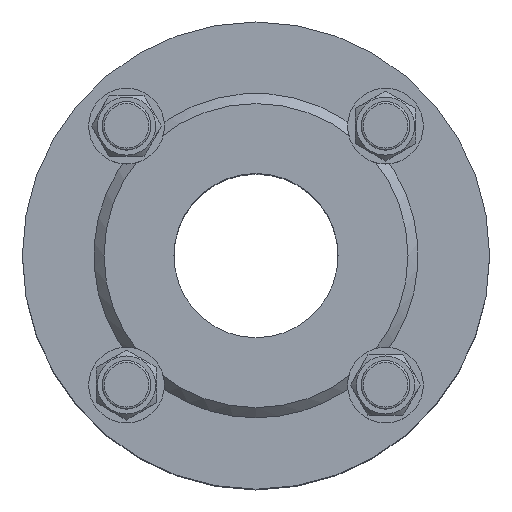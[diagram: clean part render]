
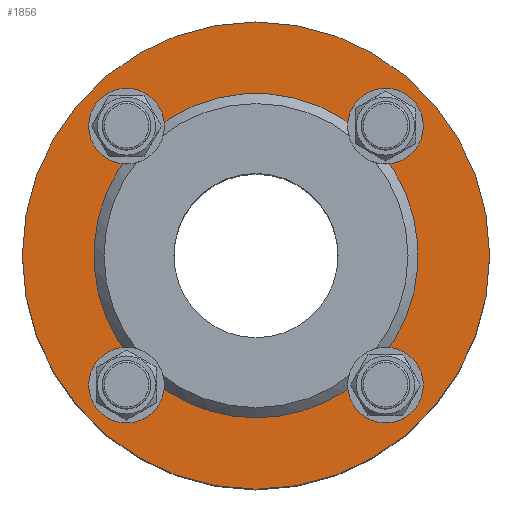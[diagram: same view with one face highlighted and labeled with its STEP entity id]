
A CAD part, top view. The second image highlights one B-rep face of the part: STEP entity #1856.
In plain terms, the highlighted planar face has unit normal (0, 0, 1) as drawn and (0, 0, -1) by its records, which use the part's own axes.
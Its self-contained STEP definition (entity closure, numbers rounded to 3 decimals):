
#1856=ADVANCED_FACE('',(#2594,#2596),#2598,.F.);
#2594=FACE_BOUND('',#2595,.T.);
#2595=EDGE_LOOP('',(#3556));
#2596=FACE_BOUND('',#2597,.T.);
#2597=EDGE_LOOP('',(#3557,#3558,#3559,#3560,#3561,#3562,#3563,#3564,#3565,#3566,
#3567,#3568,#3569));
#2598=PLANE('',#2599);
#2599=AXIS2_PLACEMENT_3D('',#2600,#2601,#2602);
#2600=CARTESIAN_POINT('',(0.,0.,4.));
#2601=DIRECTION('',(0.,0.,1.));
#2602=DIRECTION('',(-1.,0.,0.));
#3556=ORIENTED_EDGE('',*,*,#4208,.F.);
#3557=ORIENTED_EDGE('',*,*,#4207,.T.);
#3558=ORIENTED_EDGE('',*,*,#4195,.T.);
#3559=ORIENTED_EDGE('',*,*,#4209,.T.);
#3560=ORIENTED_EDGE('',*,*,#4210,.T.);
#3561=ORIENTED_EDGE('',*,*,#4202,.T.);
#3562=ORIENTED_EDGE('',*,*,#4211,.T.);
#3563=ORIENTED_EDGE('',*,*,#4212,.T.);
#3564=ORIENTED_EDGE('',*,*,#4200,.T.);
#3565=ORIENTED_EDGE('',*,*,#4199,.T.);
#3566=ORIENTED_EDGE('',*,*,#4213,.T.);
#3567=ORIENTED_EDGE('',*,*,#4214,.T.);
#3568=ORIENTED_EDGE('',*,*,#4197,.T.);
#3569=ORIENTED_EDGE('',*,*,#4206,.T.);
#4195=EDGE_CURVE('',#4489,#4490,#4491,.T.);
#4197=EDGE_CURVE('',#4494,#4492,#4495,.T.);
#4199=EDGE_CURVE('',#4498,#4496,#4499,.T.);
#4200=EDGE_CURVE('',#4500,#4498,#4501,.T.);
#4202=EDGE_CURVE('',#4504,#4502,#4505,.T.);
#4206=EDGE_CURVE('',#4492,#4511,#4512,.T.);
#4207=EDGE_CURVE('',#4511,#4489,#4513,.T.);
#4208=EDGE_CURVE('',#4514,#4514,#4515,.T.);
#4209=EDGE_CURVE('',#4490,#4516,#4517,.T.);
#4210=EDGE_CURVE('',#4516,#4504,#4518,.T.);
#4211=EDGE_CURVE('',#4502,#4519,#4520,.T.);
#4212=EDGE_CURVE('',#4519,#4500,#4521,.T.);
#4213=EDGE_CURVE('',#4496,#4522,#4523,.T.);
#4214=EDGE_CURVE('',#4522,#4494,#4524,.T.);
#4489=VERTEX_POINT('',#5336);
#4490=VERTEX_POINT('',#5337);
#4491=CIRCLE('',#5338,64.2);
#4492=VERTEX_POINT('',#5342);
#4494=VERTEX_POINT('',#5415);
#4495=CIRCLE('',#5416,64.2);
#4496=VERTEX_POINT('',#5420);
#4498=VERTEX_POINT('',#5493);
#4499=CIRCLE('',#5494,64.2);
#4500=VERTEX_POINT('',#5498);
#4501=CIRCLE('',#5499,64.2);
#4502=VERTEX_POINT('',#5503);
#4504=VERTEX_POINT('',#5576);
#4505=CIRCLE('',#5577,64.2);
#4511=VERTEX_POINT('',#5663);
#4512=CIRCLE('',#5664,9.5);
#4513=CIRCLE('',#5668,9.5);
#4514=VERTEX_POINT('',#5672);
#4515=CIRCLE('',#5673,92.5);
#4516=VERTEX_POINT('',#5677);
#4517=CIRCLE('',#5678,9.5);
#4518=CIRCLE('',#5682,9.5);
#4519=VERTEX_POINT('',#5686);
#4520=CIRCLE('',#5687,9.5);
#4521=CIRCLE('',#5691,9.5);
#4522=VERTEX_POINT('',#5695);
#4523=CIRCLE('',#5696,9.5);
#4524=CIRCLE('',#5700,9.5);
#5336=CARTESIAN_POINT('',(48.366,-42.219,4.));
#5337=CARTESIAN_POINT('',(48.366,42.219,4.));
#5338=AXIS2_PLACEMENT_3D('',#5339,#5340,#5341);
#5339=CARTESIAN_POINT('',(0.,0.,4.));
#5340=DIRECTION('',(0.,0.,1.));
#5341=DIRECTION('',(0.753,-0.658,0.));
#5342=CARTESIAN_POINT('',(42.219,-48.366,4.));
#5415=CARTESIAN_POINT('',(-42.219,-48.366,4.));
#5416=AXIS2_PLACEMENT_3D('',#5417,#5418,#5419);
#5417=CARTESIAN_POINT('',(0.,0.,4.));
#5418=DIRECTION('',(0.,0.,1.));
#5419=DIRECTION('',(-0.658,-0.753,0.));
#5420=CARTESIAN_POINT('',(-48.366,-42.219,4.));
#5493=CARTESIAN_POINT('',(-64.2,0.,4.));
#5494=AXIS2_PLACEMENT_3D('',#5495,#5496,#5497);
#5495=CARTESIAN_POINT('',(0.,0.,4.));
#5496=DIRECTION('',(0.,0.,1.));
#5497=DIRECTION('',(-1.,0.,0.));
#5498=CARTESIAN_POINT('',(-48.366,42.219,4.));
#5499=AXIS2_PLACEMENT_3D('',#5500,#5501,#5502);
#5500=CARTESIAN_POINT('',(0.,0.,4.));
#5501=DIRECTION('',(0.,0.,1.));
#5502=DIRECTION('',(-0.753,0.658,0.));
#5503=CARTESIAN_POINT('',(-42.219,48.366,4.));
#5576=CARTESIAN_POINT('',(42.219,48.366,4.));
#5577=AXIS2_PLACEMENT_3D('',#5578,#5579,#5580);
#5578=CARTESIAN_POINT('',(0.,0.,4.));
#5579=DIRECTION('',(0.,0.,1.));
#5580=DIRECTION('',(0.658,0.753,0.));
#5663=CARTESIAN_POINT('',(51.265,-60.765,4.));
#5664=AXIS2_PLACEMENT_3D('',#5665,#5666,#5667);
#5665=CARTESIAN_POINT('',(51.265,-51.265,4.));
#5666=DIRECTION('',(0.,0.,1.));
#5667=DIRECTION('',(-0.952,0.305,0.));
#5668=AXIS2_PLACEMENT_3D('',#5669,#5670,#5671);
#5669=CARTESIAN_POINT('',(51.265,-51.265,4.));
#5670=DIRECTION('',(0.,0.,1.));
#5671=DIRECTION('',(0.,-1.,0.));
#5672=CARTESIAN_POINT('',(-92.5,0.,4.));
#5673=AXIS2_PLACEMENT_3D('',#5674,#5675,#5676);
#5674=CARTESIAN_POINT('',(0.,0.,4.));
#5675=DIRECTION('',(0.,0.,1.));
#5676=DIRECTION('',(-1.,0.,0.));
#5677=CARTESIAN_POINT('',(60.765,51.265,4.));
#5678=AXIS2_PLACEMENT_3D('',#5679,#5680,#5681);
#5679=CARTESIAN_POINT('',(51.265,51.265,4.));
#5680=DIRECTION('',(0.,0.,1.));
#5681=DIRECTION('',(-0.305,-0.952,0.));
#5682=AXIS2_PLACEMENT_3D('',#5683,#5684,#5685);
#5683=CARTESIAN_POINT('',(51.265,51.265,4.));
#5684=DIRECTION('',(0.,0.,1.));
#5685=DIRECTION('',(1.,0.,0.));
#5686=CARTESIAN_POINT('',(-51.265,60.765,4.));
#5687=AXIS2_PLACEMENT_3D('',#5688,#5689,#5690);
#5688=CARTESIAN_POINT('',(-51.265,51.265,4.));
#5689=DIRECTION('',(0.,0.,1.));
#5690=DIRECTION('',(0.952,-0.305,0.));
#5691=AXIS2_PLACEMENT_3D('',#5692,#5693,#5694);
#5692=CARTESIAN_POINT('',(-51.265,51.265,4.));
#5693=DIRECTION('',(0.,0.,1.));
#5694=DIRECTION('',(0.,1.,0.));
#5695=CARTESIAN_POINT('',(-60.765,-51.265,4.));
#5696=AXIS2_PLACEMENT_3D('',#5697,#5698,#5699);
#5697=CARTESIAN_POINT('',(-51.265,-51.265,4.));
#5698=DIRECTION('',(0.,0.,1.));
#5699=DIRECTION('',(0.305,0.952,0.));
#5700=AXIS2_PLACEMENT_3D('',#5701,#5702,#5703);
#5701=CARTESIAN_POINT('',(-51.265,-51.265,4.));
#5702=DIRECTION('',(0.,0.,1.));
#5703=DIRECTION('',(-1.,0.,0.));
